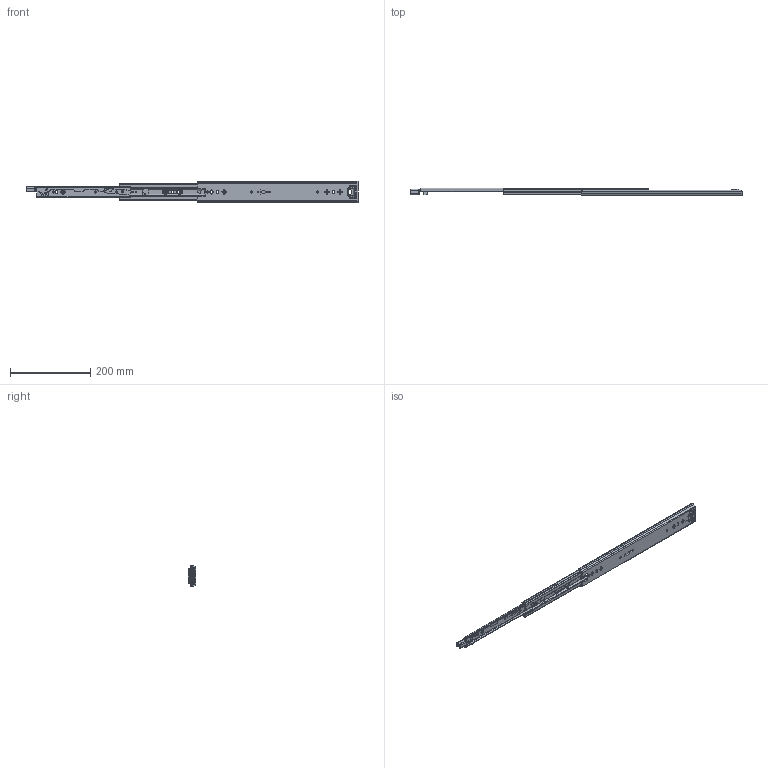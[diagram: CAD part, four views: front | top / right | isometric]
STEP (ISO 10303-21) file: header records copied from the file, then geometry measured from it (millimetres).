
FILE_DESCRIPTION((''),'2;1');
FILE_NAME('1053-3S-16YOU_ASM','2023-04-06T',('jishu015'),(''),'PRO/ENGINEER BY PARAMETRIC TECHNOLOGY CORPORATION, 2010280','PRO/ENGINEER BY PARAMETRIC TECHNOLOGY CORPORATION, 2010280','');
FILE_SCHEMA(('CONFIG_CONTROL_DESIGN'));
Length unit declared in the file: millimetre
Products named in the file (20): 1053-02-18WAIKE12____; 1053WEIJIAO12____; 1053-3S-24WAIKE12_____ASM; 1053ZHUTIAO-17521____; 53-5-6GANZHU21____; 1053ZHUTIAO-175MM21_____ASM; 1053-02-18ZHONGGUI21____; ZHONGGUIPEIJIAN21____; ZHONGGUISUOKOU21____; 1053-02-18ZHONGGUI21_____ASM; 1053XIAOZHUJIA-14GE21____; 1053XIAOZHUJIA-14GE21_____ASM; 1053-02-18NEIGUI21____; DAOPIAN21____; PIAN21____; 1053-3SBANJI12321____; JIAO-121____; 50XINSUOKOU2____; 1053-02-18NEIGUI21_____ASM; 1053-3S-16YOU_ASM
Assembly tree (49 placements, depth 3):
  1053-3S-16YOU_ASM
    1053-3S-24WAIKE12_____ASM
      1053-02-18WAIKE12____
      1053WEIJIAO12____
    1053ZHUTIAO-175MM21_____ASM  x2
      1053ZHUTIAO-17521____
      53-5-6GANZHU21____
    1053-02-18ZHONGGUI21_____ASM
      1053-02-18ZHONGGUI21____
      ZHONGGUIPEIJIAN21____
      ZHONGGUISUOKOU21____
    1053XIAOZHUJIA-14GE21_____ASM
      1053XIAOZHUJIA-14GE21____
      53-5-6GANZHU21____  x24
    1053-02-18NEIGUI21_____ASM
      1053-02-18NEIGUI21____
      DAOPIAN21____
      PIAN21____
      1053-3SBANJI12321____
      JIAO-121____
      50XINSUOKOU2____
Bounding box: 826.92 x 18.7 x 53 mm (x, y, z)
Volume: 151219.5 mm3; surface area: 173904.3 mm2
Topology: 51 solids, 51 shells, 1534 faces, 4372 edges, 2754 vertices
Faces by surface type: plane 659, cylinder 635, sphere 80, bspline 75, cone 46, extrusion 23, torus 16
Entity records: 51173 total; most frequent: CARTESIAN_POINT 13245, ORIENTED_EDGE 8034, DIRECTION 7748, EDGE_CURVE 4017, AXIS2_PLACEMENT_3D 2667, VERTEX_POINT 2596, VECTOR 2414, LINE 2391
